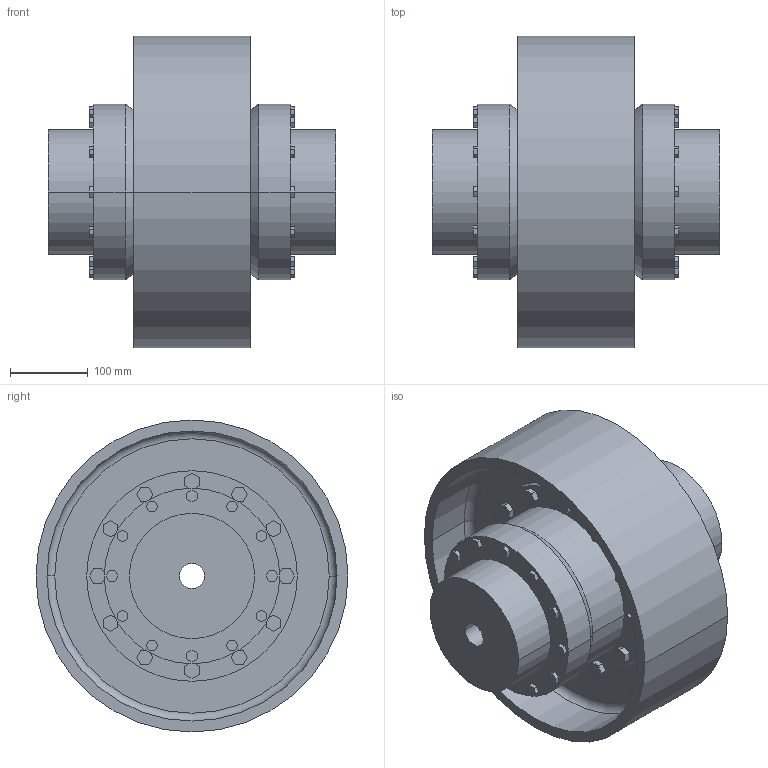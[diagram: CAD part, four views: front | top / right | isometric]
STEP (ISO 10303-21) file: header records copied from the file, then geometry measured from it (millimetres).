
FILE_DESCRIPTION((''),'2;1');
FILE_NAME('A19736100-0_ASM','2019-05-23T',('AB_Roschiwal'),('RENK AG'),'PRO/ENGINEER BY PARAMETRIC TECHNOLOGY CORPORATION, 2015440','PRO/ENGINEER BY PARAMETRIC TECHNOLOGY CORPORATION, 2015440','');
FILE_SCHEMA(('CONFIG_CONTROL_DESIGN'));
Length unit declared in the file: millimetre
Products named in the file (4): SBKD100_GEHAEUSE; SBKD100_NABE; SBKD100_BREMSSCHEIBE; A19736100-0_ASM
Assembly tree (4 placements, depth 2):
  A19736100-0_ASM
    SBKD100_GEHAEUSE
    SBKD100_NABE  x2
    SBKD100_BREMSSCHEIBE
Bounding box: 369 x 400 x 400 mm (x, y, z)
Volume: 11728811.7 mm3; surface area: 1291024.8 mm2
Topology: 4 solids, 4 shells, 474 faces, 1164 edges, 772 vertices
Faces by surface type: plane 370, cylinder 96, cone 4, torus 4
Entity records: 13708 total; most frequent: CARTESIAN_POINT 2366, ORIENTED_EDGE 2280, DIRECTION 2264, EDGE_CURVE 1140, VECTOR 956, LINE 956, VERTEX_POINT 756, AXIS2_PLACEMENT_3D 654
